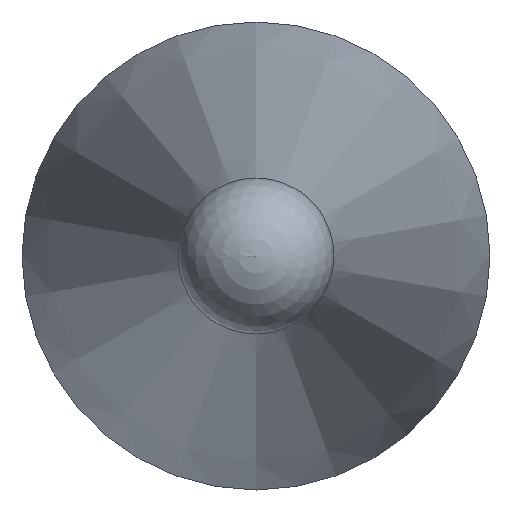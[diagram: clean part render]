
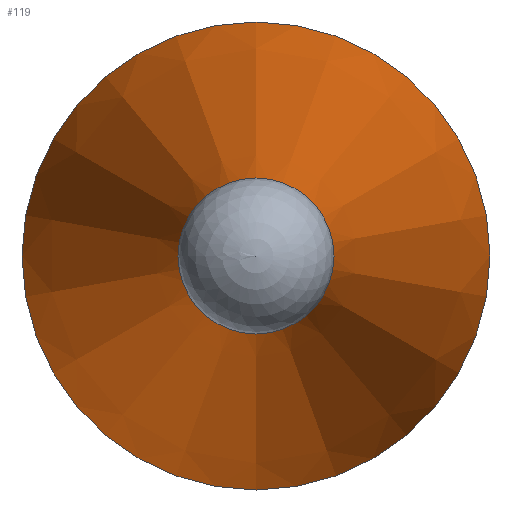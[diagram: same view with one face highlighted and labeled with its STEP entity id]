
A CAD part, left-side view. The second image highlights one B-rep face of the part: STEP entity #119.
In plain terms, the highlighted conical face has half-angle 11 degrees and reference radius 3 mm.
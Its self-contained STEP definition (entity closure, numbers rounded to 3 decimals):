
#93=CONICAL_SURFACE('',#191,3.,11.);
#106=FACE_BOUND('',#137,.T.);
#107=FACE_BOUND('',#138,.T.);
#119=ADVANCED_FACE('',(#106,#107),#93,.T.);
#137=EDGE_LOOP('',(#151));
#138=EDGE_LOOP('',(#152));
#151=ORIENTED_EDGE('',*,*,#168,.F.);
#152=ORIENTED_EDGE('',*,*,#169,.T.);
#161=VERTEX_POINT('',#244);
#162=VERTEX_POINT('',#247);
#168=EDGE_CURVE('',#161,#161,#175,.T.);
#169=EDGE_CURVE('',#162,#162,#176,.T.);
#175=CIRCLE('',#188,0.95);
#176=CIRCLE('',#190,3.);
#188=AXIS2_PLACEMENT_3D('',#243,#215,#216);
#190=AXIS2_PLACEMENT_3D('',#246,#219,#220);
#191=AXIS2_PLACEMENT_3D('',#248,#221,#222);
#215=DIRECTION('',(-1.,0.,0.));
#216=DIRECTION('',(0.,0.,1.));
#219=DIRECTION('',(-1.,0.,0.));
#220=DIRECTION('',(0.,0.,1.));
#221=DIRECTION('',(1.,0.,0.));
#222=DIRECTION('',(0.,0.,-1.));
#243=CARTESIAN_POINT('',(7881.538,6111.981,0.));
#244=CARTESIAN_POINT('',(7881.538,6111.981,0.95));
#246=CARTESIAN_POINT('',(7892.085,6111.981,0.));
#247=CARTESIAN_POINT('',(7892.085,6111.981,3.));
#248=CARTESIAN_POINT('',(7892.085,6111.981,0.));
